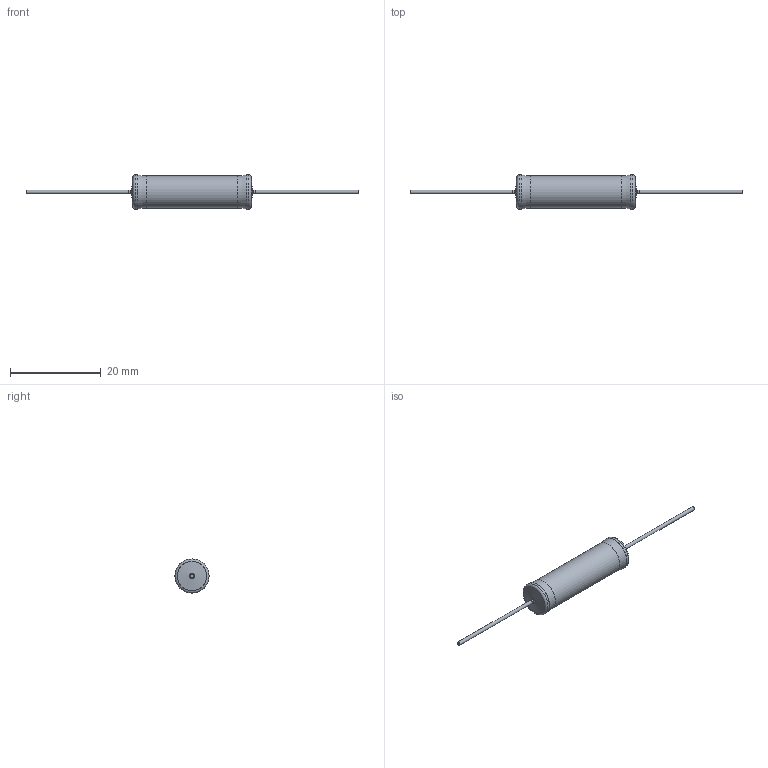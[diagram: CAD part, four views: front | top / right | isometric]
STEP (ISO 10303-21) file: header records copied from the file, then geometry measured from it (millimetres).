
FILE_DESCRIPTION(/* description */ (''),/* implementation_level */ '2;1');
FILE_NAME(/* name */ 'P:\Work\User\Special\CAD\Marketing\PAC05.stp',/* time_stamp */ '2020-02-19T08:53:43+01:00',/* author */ ('klepschi'),/* organization */ (''),/* preprocessor_version */ 'ST-DEVELOPER v16.5',/* originating_system */ 'Autodesk Inventor 2017',/* authorisation */ '');
FILE_SCHEMA (('AUTOMOTIVE_DESIGN { 1 0 10303 214 3 1 1 }'));
Length unit declared in the file: millimetre
Products named in the file (1): PAC05
Bounding box: 73 x 7.5 x 7.5 mm (x, y, z)
Volume: 1072.8 mm3; surface area: 779.4 mm2
Topology: 1 solids, 1 shells, 27 faces, 47 edges, 28 vertices
Faces by surface type: cylinder 9, plane 8, torus 8, cone 2
Full cylindrical faces by diameter (mm): 0.798 x2, 0.8 x4, 7.1 x1, 7.5 x2
Entity records: 605 total; most frequent: DIRECTION 108, CARTESIAN_POINT 80, AXIS2_PLACEMENT_3D 54, EDGE_LOOP 52, ORIENTED_EDGE 52, STYLED_ITEM 28, FACE_OUTER_BOUND 27, ADVANCED_FACE 27
